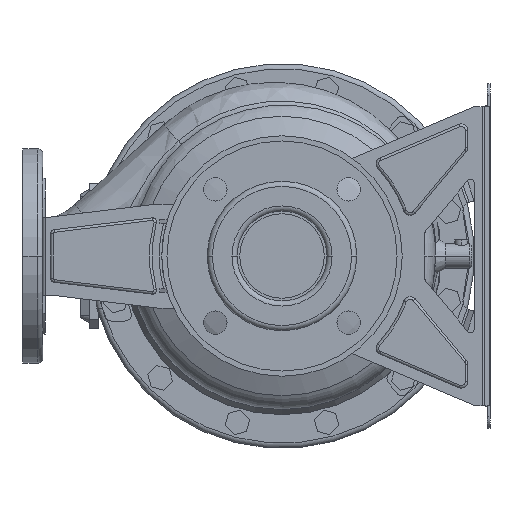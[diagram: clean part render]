
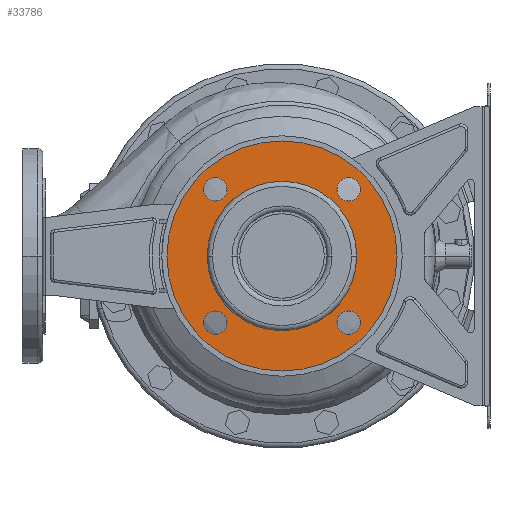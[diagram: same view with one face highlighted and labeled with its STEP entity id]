
A CAD part, front view. The second image highlights one B-rep face of the part: STEP entity #33786.
In plain terms, the highlighted planar face has unit normal (0, -1, 0) as drawn and (-1, 0, 0) by its records, which use the part's own axes.
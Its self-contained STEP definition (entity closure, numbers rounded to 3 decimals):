
#33119=CARTESIAN_POINT('',(12.,0.,0.));
#33120=DIRECTION('',(-1.,0.,0.));
#33121=DIRECTION('',(0.,1.,0.));
#33122=AXIS2_PLACEMENT_3D('',#33119,#33120,#33121);
#33127=CARTESIAN_POINT('',(12.,0.,0.));
#33128=DIRECTION('',(1.,0.,0.));
#33129=DIRECTION('',(0.,1.,0.));
#33130=AXIS2_PLACEMENT_3D('',#33127,#33128,#33129);
#33135=CARTESIAN_POINT('',(12.,-51.265,51.265));
#33136=DIRECTION('',(1.,0.,0.));
#33137=DIRECTION('',(0.,1.,0.));
#33138=AXIS2_PLACEMENT_3D('',#33135,#33136,#33137);
#33143=CARTESIAN_POINT('',(12.,-51.265,51.265));
#33144=DIRECTION('',(1.,0.,0.));
#33145=DIRECTION('',(0.,-1.,0.));
#33146=AXIS2_PLACEMENT_3D('',#33143,#33144,#33145);
#33151=CARTESIAN_POINT('',(12.,-51.265,-51.265));
#33152=DIRECTION('',(1.,0.,0.));
#33153=DIRECTION('',(0.,0.,1.));
#33154=AXIS2_PLACEMENT_3D('',#33151,#33152,#33153);
#33159=CARTESIAN_POINT('',(12.,-51.265,-51.265));
#33160=DIRECTION('',(1.,0.,0.));
#33161=DIRECTION('',(0.,0.,-1.));
#33162=AXIS2_PLACEMENT_3D('',#33159,#33160,#33161);
#33167=CARTESIAN_POINT('',(12.,51.265,-51.265));
#33168=DIRECTION('',(1.,0.,0.));
#33169=DIRECTION('',(0.,-1.,0.));
#33170=AXIS2_PLACEMENT_3D('',#33167,#33168,#33169);
#33175=CARTESIAN_POINT('',(12.,51.265,-51.265));
#33176=DIRECTION('',(1.,0.,0.));
#33177=DIRECTION('',(0.,1.,0.));
#33178=AXIS2_PLACEMENT_3D('',#33175,#33176,#33177);
#33183=CARTESIAN_POINT('',(12.,51.265,51.265));
#33184=DIRECTION('',(1.,0.,0.));
#33185=DIRECTION('',(0.,0.,-1.));
#33186=AXIS2_PLACEMENT_3D('',#33183,#33184,#33185);
#33191=CARTESIAN_POINT('',(12.,51.265,51.265));
#33192=DIRECTION('',(1.,0.,0.));
#33193=DIRECTION('',(0.,0.,1.));
#33194=AXIS2_PLACEMENT_3D('',#33191,#33192,#33193);
#33199=CARTESIAN_POINT('',(12.,0.,0.));
#33200=DIRECTION('',(1.,0.,0.));
#33201=DIRECTION('',(0.,1.,0.));
#33202=AXIS2_PLACEMENT_3D('',#33199,#33200,#33201);
#33221=CARTESIAN_POINT('',(12.,0.,0.));
#33222=DIRECTION('',(-1.,0.,0.));
#33223=DIRECTION('',(0.,1.,0.));
#33224=AXIS2_PLACEMENT_3D('',#33221,#33222,#33223);
#33386=CARTESIAN_POINT('',(12.,88.5,0.));
#33388=VERTEX_POINT('',#33386);
#33389=CARTESIAN_POINT('',(12.,57.5,0.));
#33391=VERTEX_POINT('',#33389);
#33418=CARTESIAN_POINT('',(12.,-88.5,0.));
#33420=VERTEX_POINT('',#33418);
#33421=CARTESIAN_POINT('',(12.,-57.5,0.));
#33423=VERTEX_POINT('',#33421);
#33433=CARTESIAN_POINT('',(12.,-42.265,51.265));
#33434=CARTESIAN_POINT('',(12.,-60.265,51.265));
#33435=VERTEX_POINT('',#33433);
#33436=VERTEX_POINT('',#33434);
#33441=CARTESIAN_POINT('',(12.,-51.265,-42.265));
#33442=CARTESIAN_POINT('',(12.,-51.265,-60.265));
#33443=VERTEX_POINT('',#33441);
#33444=VERTEX_POINT('',#33442);
#33449=CARTESIAN_POINT('',(12.,42.265,-51.265));
#33450=CARTESIAN_POINT('',(12.,60.265,-51.265));
#33451=VERTEX_POINT('',#33449);
#33452=VERTEX_POINT('',#33450);
#33457=CARTESIAN_POINT('',(12.,51.265,42.265));
#33458=CARTESIAN_POINT('',(12.,51.265,60.265));
#33459=VERTEX_POINT('',#33457);
#33460=VERTEX_POINT('',#33458);
#33747=CARTESIAN_POINT('',(12.,0.,0.));
#33748=DIRECTION('',(1.,0.,0.));
#33749=DIRECTION('',(0.,-1.,0.));
#33750=AXIS2_PLACEMENT_3D('',#33747,#33748,#33749);
#33751=PLANE('',#33750);
#33752=ORIENTED_EDGE('',*,*,#33740,.F.);
#33753=ORIENTED_EDGE('',*,*,#33729,.T.);
#33754=EDGE_LOOP('',(#33752,#33753));
#33755=FACE_OUTER_BOUND('',#33754,.F.);
#33757=ORIENTED_EDGE('',*,*,#33756,.F.);
#33759=ORIENTED_EDGE('',*,*,#33758,.T.);
#33760=EDGE_LOOP('',(#33757,#33759));
#33761=FACE_BOUND('',#33760,.F.);
#33763=ORIENTED_EDGE('',*,*,#33762,.F.);
#33765=ORIENTED_EDGE('',*,*,#33764,.F.);
#33766=EDGE_LOOP('',(#33763,#33765));
#33767=FACE_BOUND('',#33766,.F.);
#33769=ORIENTED_EDGE('',*,*,#33768,.F.);
#33771=ORIENTED_EDGE('',*,*,#33770,.F.);
#33772=EDGE_LOOP('',(#33769,#33771));
#33773=FACE_BOUND('',#33772,.F.);
#33775=ORIENTED_EDGE('',*,*,#33774,.F.);
#33777=ORIENTED_EDGE('',*,*,#33776,.F.);
#33778=EDGE_LOOP('',(#33775,#33777));
#33779=FACE_BOUND('',#33778,.F.);
#33781=ORIENTED_EDGE('',*,*,#33780,.F.);
#33783=ORIENTED_EDGE('',*,*,#33782,.F.);
#33784=EDGE_LOOP('',(#33781,#33783));
#33785=FACE_BOUND('',#33784,.F.);
#33123=CIRCLE('',#33122,88.5);
#33131=CIRCLE('',#33130,88.5);
#33139=CIRCLE('',#33138,9.);
#33147=CIRCLE('',#33146,9.);
#33155=CIRCLE('',#33154,9.);
#33163=CIRCLE('',#33162,9.);
#33171=CIRCLE('',#33170,9.);
#33179=CIRCLE('',#33178,9.);
#33187=CIRCLE('',#33186,9.);
#33195=CIRCLE('',#33194,9.);
#33203=CIRCLE('',#33202,57.5);
#33225=CIRCLE('',#33224,57.5);
#33729=EDGE_CURVE('',#33388,#33420,#33131,.T.);
#33740=EDGE_CURVE('',#33388,#33420,#33123,.T.);
#33756=EDGE_CURVE('',#33391,#33423,#33203,.T.);
#33758=EDGE_CURVE('',#33391,#33423,#33225,.T.);
#33762=EDGE_CURVE('',#33435,#33436,#33139,.T.);
#33764=EDGE_CURVE('',#33436,#33435,#33147,.T.);
#33768=EDGE_CURVE('',#33443,#33444,#33155,.T.);
#33770=EDGE_CURVE('',#33444,#33443,#33163,.T.);
#33774=EDGE_CURVE('',#33451,#33452,#33171,.T.);
#33776=EDGE_CURVE('',#33452,#33451,#33179,.T.);
#33780=EDGE_CURVE('',#33459,#33460,#33187,.T.);
#33782=EDGE_CURVE('',#33460,#33459,#33195,.T.);
#33786=ADVANCED_FACE('',(#33755,#33761,#33767,#33773,#33779,#33785),#33751,.F.);
